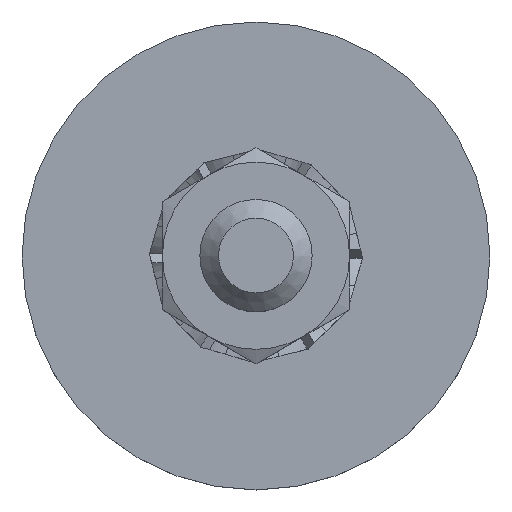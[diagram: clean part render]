
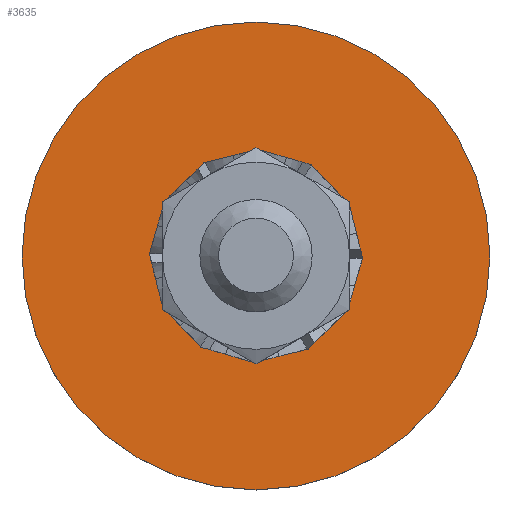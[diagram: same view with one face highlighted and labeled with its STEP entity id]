
A CAD part, top view. The second image highlights one B-rep face of the part: STEP entity #3635.
In plain terms, the highlighted planar face has unit normal (0, 0, 1).
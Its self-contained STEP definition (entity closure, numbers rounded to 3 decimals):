
#515=PLANE('',#4737);
#692=CIRCLE('',#4732,3.25);
#694=CIRCLE('',#4735,12.5);
#1575=ORIENTED_EDGE('',*,*,#2306,.T.);
#1576=ORIENTED_EDGE('',*,*,#2308,.F.);
#2306=EDGE_CURVE('',#2735,#2735,#692,.T.);
#2308=EDGE_CURVE('',#2737,#2737,#694,.T.);
#2735=VERTEX_POINT('',#6910);
#2737=VERTEX_POINT('',#6915);
#3059=EDGE_LOOP('',(#1575));
#3060=EDGE_LOOP('',(#1576));
#3313=FACE_BOUND('',#3059,.T.);
#3314=FACE_BOUND('',#3060,.T.);
#3635=ADVANCED_FACE('',(#3313,#3314),#515,.F.);
#4732=AXIS2_PLACEMENT_3D('',#6909,#5694,#5695);
#4735=AXIS2_PLACEMENT_3D('',#6914,#5700,#5701);
#4737=AXIS2_PLACEMENT_3D('',#6917,#5704,#5705);
#5694=DIRECTION('',(0.,0.,-1.));
#5695=DIRECTION('',(1.,0.,0.));
#5700=DIRECTION('',(0.,0.,-1.));
#5701=DIRECTION('',(1.,0.,0.));
#5704=DIRECTION('',(0.,0.,-1.));
#5705=DIRECTION('',(-1.,0.,0.));
#6909=CARTESIAN_POINT('',(0.,0.,2.7));
#6910=CARTESIAN_POINT('',(3.25,0.,2.7));
#6914=CARTESIAN_POINT('',(0.,0.,2.7));
#6915=CARTESIAN_POINT('',(12.5,0.,2.7));
#6917=CARTESIAN_POINT('',(0.,0.,2.7));
